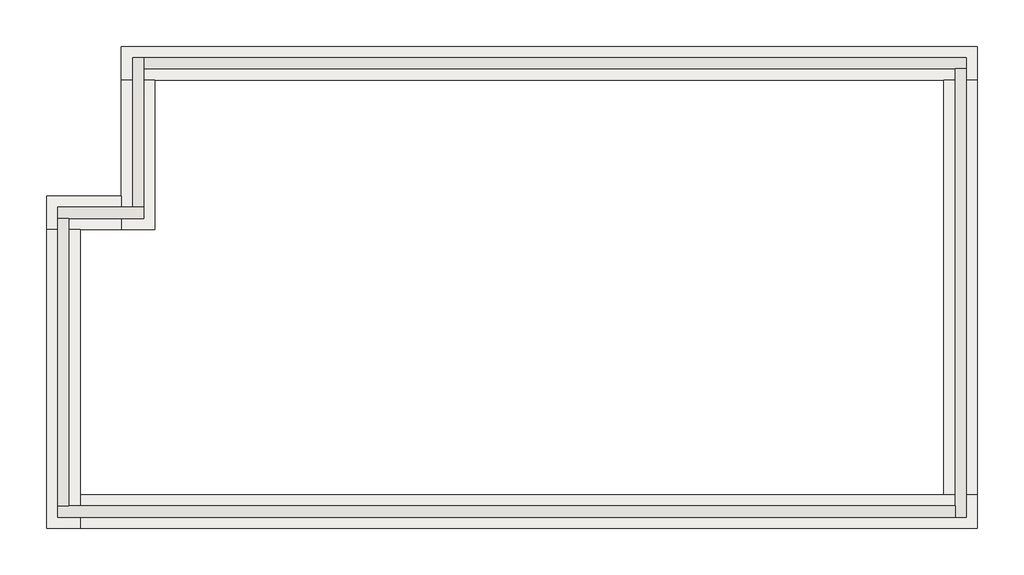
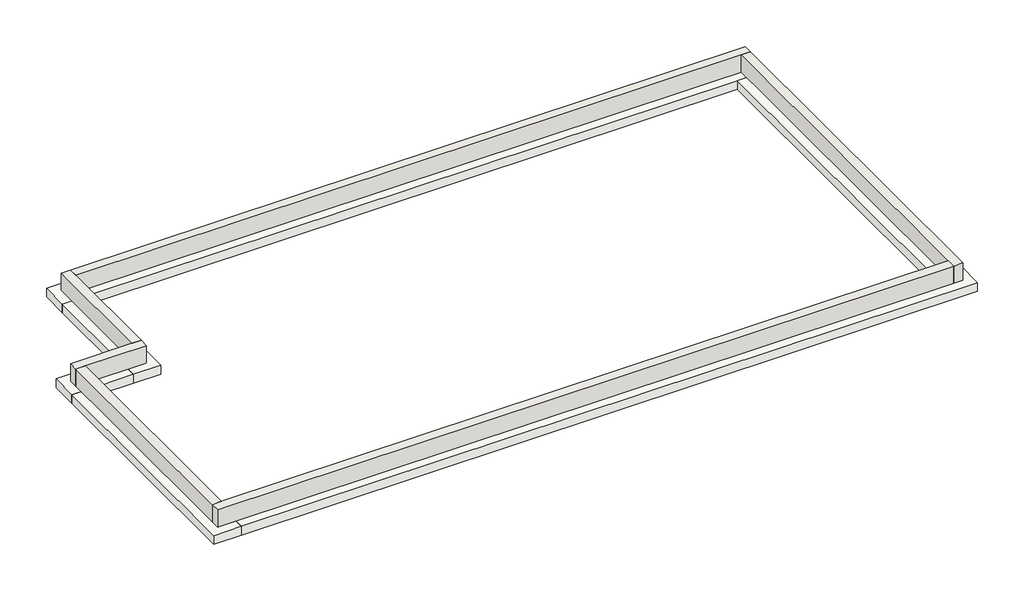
# One storey: 6 footings, 6 walls.
"""IFC4 building model written with IfcOpenShell, lengths in millimetres."""

from ifc_helpers import new_model, si_unit, frame, origin, place, context, project, spatial, polyline, outline, extrude, faceted_brep, element, save

model = new_model("IFC4")

# Units and contexts
model_context = context("Model", 3, world=origin())
ifc_project = project(units=[si_unit("LENGTHUNIT", "METRE", prefix="MILLI")], contexts=[model_context])

# Site, building, storey
site = spatial("IfcSite", under=ifc_project)
building = spatial("IfcBuilding", under=site)
storey = spatial("IfcBuildingStorey", under=building, Name="koruna zakladu", Elevation=-600.0)

# Footings
placement = place(None, origin())
element("IfcFooting", 1, ObjectType="PataZaklad.Pasu - 300 x 300 x 300", at=placement, inside=storey, context=model_context, shape_type="Brep", body=[
    faceted_brep([(23094.798415, 18157.8779697, -600.0), (23994.798415, 18157.8779697, -600.0), (45094.798415, 18157.8779697, -600.0), (45994.798415, 18157.8779697, -600.0), (45994.798415, 19057.8779697, -600.0), (23094.798415, 19057.8779697, -600.0), (23094.798415, 19057.8779697, -900.0), (45994.798415, 19057.8779697, -900.0), (23094.798415, 18157.8779697, -900.0), (45994.798415, 18157.8779697, -900.0), (45094.798415, 18157.8779697, -900.0), (23994.798415, 18157.8779697, -900.0)], [[[0, 1, 2, 3, 4, 5]], [[6, 5, 4, 7]], [[8, 6, 7, 9, 10, 11]], [[0, 8, 11, 10, 9, 3, 2, 1]], [[0, 5, 6, 8]], [[4, 3, 9, 7]]]),
])
element("IfcFooting", 2, ObjectType="PataZaklad.Pasu - 300 x 300 x 300", at=placement, inside=storey, context=model_context, shape_type="Brep", body=[
    faceted_brep([(23094.798415, 14157.8779697, -600.0), (23994.798415, 14157.8779697, -600.0), (23994.798415, 18157.8779697, -600.0), (23094.798415, 18157.8779697, -600.0), (23094.798415, 15057.8779697, -600.0), (23094.798415, 14157.8779697, -900.0), (23094.798415, 18157.8779697, -900.0), (23094.798415, 15057.8779697, -900.0), (23994.798415, 14157.8779697, -900.0), (23994.798415, 18157.8779697, -900.0)], [[[0, 1, 2, 3, 4]], [[5, 0, 4, 3, 6, 7]], [[8, 5, 7, 6, 9]], [[1, 8, 9, 2]], [[1, 0, 5, 8]], [[3, 2, 9, 6]]]),
])
element("IfcFooting", 3, ObjectType="PataZaklad.Pasu - 300 x 300 x 300", at=placement, inside=storey, context=model_context, shape_type="Brep", body=[
    faceted_brep([(21094.798415, 15057.8779697, -600.0), (21094.798415, 14157.8779697, -600.0), (21994.798415, 14157.8779697, -600.0), (23094.798415, 14157.8779697, -600.0), (23094.798415, 15057.8779697, -600.0), (21094.798415, 15057.8779697, -900.0), (23094.798415, 15057.8779697, -900.0), (21094.798415, 14157.8779697, -900.0), (23094.798415, 14157.8779697, -900.0), (21994.798415, 14157.8779697, -900.0)], [[[0, 1, 2, 3, 4]], [[5, 0, 4, 6]], [[7, 5, 6, 8, 9]], [[1, 7, 9, 8, 3, 2]], [[1, 0, 5, 7]], [[4, 3, 8, 6]]]),
])
element("IfcFooting", 4, ObjectType="PataZaklad.Pasu - 300 x 300 x 300", at=placement, inside=storey, context=model_context, shape_type="Brep", body=[
    faceted_brep([(21094.798415, 6157.8779697, -600.0), (21994.798415, 6157.8779697, -600.0), (21994.798415, 7057.8779697, -600.0), (21994.798415, 14157.8779697, -600.0), (21094.798415, 14157.8779697, -600.0), (21094.798415, 6157.8779697, -900.0), (21094.798415, 14157.8779697, -900.0), (21994.798415, 6157.8779697, -900.0), (21994.798415, 14157.8779697, -900.0), (21994.798415, 7057.8779697, -900.0)], [[[0, 1, 2, 3, 4]], [[5, 0, 4, 6]], [[7, 5, 6, 8, 9]], [[1, 7, 9, 8, 3, 2]], [[1, 0, 5, 7]], [[4, 3, 8, 6]]]),
])
element("IfcFooting", 5, ObjectType="PataZaklad.Pasu - 300 x 300 x 300", at=placement, inside=storey, context=model_context, shape_type="Brep", body=[
    faceted_brep([(45994.798415, 6157.8779697, -600.0), (45994.798415, 7057.8779697, -600.0), (45094.798415, 7057.8779697, -600.0), (21994.798415, 7057.8779697, -600.0), (21994.798415, 6157.8779697, -600.0), (45994.798415, 6157.8779697, -900.0), (21994.798415, 6157.8779697, -900.0), (45994.798415, 7057.8779697, -900.0), (21994.798415, 7057.8779697, -900.0), (45094.798415, 7057.8779697, -900.0)], [[[0, 1, 2, 3, 4]], [[5, 0, 4, 6]], [[7, 5, 6, 8, 9]], [[1, 7, 9, 8, 3, 2]], [[1, 0, 5, 7]], [[4, 3, 8, 6]]]),
])
element("IfcFooting", 6, ObjectType="PataZaklad.Pasu - 300 x 300 x 300", at=placement, inside=storey, context=model_context, shape_type="SweptSolid", body=[
    extrude(outline(polyline([(45094.798415, 18157.8779697), (45994.798415, 18157.8779697), (45994.798415, 7057.8779697), (45094.798415, 7057.8779697), (45094.798415, 18157.8779697)])), frame((0.0, 0.0, -900.0), z_axis=(0.0, 0.0, 1.0), x_axis=(1.0, 0.0, 0.0)), (0.0, 0.0, 1.0), 300.0),
])

# Walls
element("IfcWall", 7, ObjectType="Základový pas 300mm", at=placement, inside=storey, context=model_context, shape_type="Brep", body=[
    faceted_brep([(21394.798415, 14457.8779697, -600.0), (21694.798415, 14457.8779697, -600.0), (23694.798415, 14457.8779697, -600.0), (23694.798415, 14457.8779697, 0.0), (21694.798415, 14457.8779697, 0.0), (21394.798415, 14457.8779697, 0.0), (21394.798415, 14757.8779697, -600.0), (21394.798415, 14757.8779697, 0.0), (23394.798415, 14757.8779697, 0.0), (23694.798415, 14757.8779697, 0.0), (23694.798415, 14757.8779697, -600.0), (23394.798415, 14757.8779697, -600.0)], [[[0, 1, 2, 3, 4, 5]], [[6, 7, 8, 9, 10, 11]], [[2, 1, 0, 6, 11, 10]], [[5, 4, 3, 9, 8, 7]], [[3, 2, 10, 9]], [[0, 5, 7, 6]]]),
])
element("IfcWall", 8, ObjectType="Základový pas 300mm", at=placement, inside=storey, context=model_context, shape_type="Brep", body=[
    faceted_brep([(23694.798415, 14757.8779697, -600.0), (23694.798415, 18457.8779697, -600.0), (23694.798415, 18757.8779697, -600.0), (23694.798415, 18757.8779697, 0.0), (23694.798415, 18457.8779697, 0.0), (23694.798415, 14757.8779697, 0.0), (23394.798415, 14757.8779697, -600.0), (23394.798415, 14757.8779697, 0.0), (23394.798415, 18757.8779697, 0.0), (23394.798415, 18757.8779697, -600.0)], [[[0, 1, 2, 3, 4, 5]], [[6, 7, 8, 9]], [[2, 1, 0, 6, 9]], [[5, 4, 3, 8, 7]], [[3, 2, 9, 8]], [[0, 5, 7, 6]]]),
])
element("IfcWall", 9, ObjectType="Základový pas 300mm", at=placement, inside=storey, context=model_context, shape_type="Brep", body=[
    faceted_brep([(23694.798415, 18457.8779697, -600.0), (45394.798415, 18457.8779697, -600.0), (45694.798415, 18457.8779697, -600.0), (45694.798415, 18457.8779697, 0.0), (45394.798415, 18457.8779697, 0.0), (23694.798415, 18457.8779697, 0.0), (23694.798415, 18757.8779697, -600.0), (23694.798415, 18757.8779697, 0.0), (45694.798415, 18757.8779697, 0.0), (45694.798415, 18757.8779697, -600.0)], [[[0, 1, 2, 3, 4, 5]], [[6, 7, 8, 9]], [[2, 1, 0, 6, 9]], [[5, 4, 3, 8, 7]], [[3, 2, 9, 8]], [[0, 5, 7, 6]]]),
])
element("IfcWall", 10, ObjectType="Základový pas 300mm", at=placement, inside=storey, context=model_context, shape_type="Brep", body=[
    faceted_brep([(45394.798415, 18457.8779697, -600.0), (45394.798415, 6757.8779697, -600.0), (45394.798415, 6457.8779697, -600.0), (45394.798415, 6457.8779697, 0.0), (45394.798415, 6757.8779697, 0.0), (45394.798415, 18457.8779697, 0.0), (45694.798415, 18457.8779697, -600.0), (45694.798415, 18457.8779697, 0.0), (45694.798415, 6457.8779697, 0.0), (45694.798415, 6457.8779697, -600.0)], [[[0, 1, 2, 3, 4, 5]], [[6, 7, 8, 9]], [[2, 1, 0, 6, 9]], [[5, 4, 3, 8, 7]], [[3, 2, 9, 8]], [[0, 5, 7, 6]]]),
])
element("IfcWall", 11, ObjectType="Základový pas 300mm", at=placement, inside=storey, context=model_context, shape_type="Brep", body=[
    faceted_brep([(45394.798415, 6757.8779697, -600.0), (21694.798415, 6757.8779697, -600.0), (21394.798415, 6757.8779697, -600.0), (21394.798415, 6757.8779697, 0.0), (21694.798415, 6757.8779697, 0.0), (45394.798415, 6757.8779697, 0.0), (45394.798415, 6457.8779697, -600.0), (45394.798415, 6457.8779697, 0.0), (21394.798415, 6457.8779697, 0.0), (21394.798415, 6457.8779697, -600.0)], [[[0, 1, 2, 3, 4, 5]], [[6, 7, 8, 9]], [[2, 1, 0, 6, 9]], [[5, 4, 3, 8, 7]], [[3, 2, 9, 8]], [[0, 5, 7, 6]]]),
])
element("IfcWall", 12, ObjectType="Základový pas 300mm", at=placement, inside=storey, context=model_context, shape_type="SweptSolid", body=[
    extrude(outline(polyline([(21694.798415, 14457.8779697), (21694.798415, 6757.8779697), (21394.798415, 6757.8779697), (21394.798415, 14457.8779697), (21694.798415, 14457.8779697)])), frame((0.0, 0.0, -600.0), z_axis=(0.0, 0.0, 1.0), x_axis=(1.0, 0.0, 0.0)), (0.0, 0.0, 1.0), 600.0),
])

save(model, "model.ifc")
